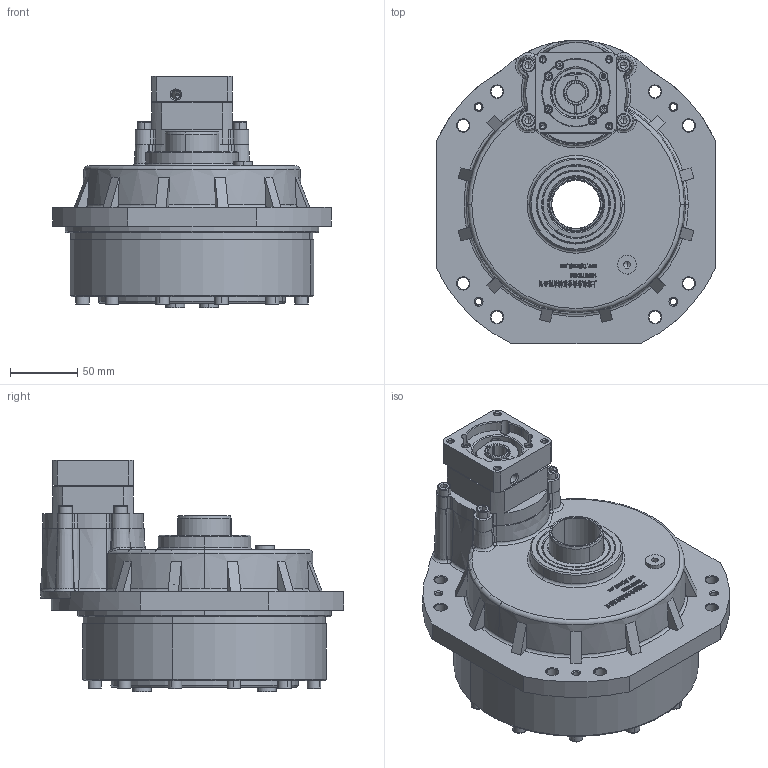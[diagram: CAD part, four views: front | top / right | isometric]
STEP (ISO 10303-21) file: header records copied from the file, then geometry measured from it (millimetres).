
FILE_DESCRIPTION (( 'STEP AP214' ), '1' );
FILE_NAME ('27CBX-RCA-14-5070.STEP', '2022-11-13T01:35:46', ( '' ), ( '' ), 'SwSTEP 2.0', 'SolidWorks 2020', '' );
FILE_SCHEMA (( 'AUTOMOTIVE_DESIGN' ));
Length unit declared in the file: millimetre
Products named in the file (19): 弹性挡圈GB 894.1-86 - 40.stp; 坶踡ん14-18.stp; 27C假蚾楊擘-02new.stp; 27CBX-RCA-14-5070.stp; 27C笢潔楊擘-60.stp; JIS B 2402 - 40 52 8 A(7).stp; 錨璃90^27CBX-RCA-14-5070; 27CBX-OP00.stp; 蹟隊 GB_T 70.1 M3 x 16.stp; 粣創 61908-2LS GB_T 276-94.stp; DIN 908 - M10 x 1.stp; 蹟隊 GB_T 70.1 M6 x 30.stp; 腴厒奪-27C.stp; 蹟隊 GB_T 70.1 M4 x 16.stp; 060菜えA.stp; 蹟隊 GB_T 70.1 M6 x 60.stp; JIS B 2402 - 40 58 8 A(7).stp; RDS-27C-输入轴14孔.stp; 27CBX-RCA-14-5070
Assembly tree (42 placements, depth 3):
  27CBX-RCA-14-5070
    27CBX-RCA-14-5070.stp
      27CBX-OP00.stp
      27C假蚾楊擘-02new.stp
      粣創 61908-2LS GB_T 276-94.stp
      27C笢潔楊擘-60.stp
      JIS B 2402 - 40 58 8 A(7).stp
      RDS-27C-输入轴14孔.stp
      弹性挡圈GB 894.1-86 - 40.stp
      JIS B 2402 - 40 52 8 A(7).stp
      060菜えA.stp
      坶踡ん14-18.stp
      蹟隊 GB_T 70.1 M3 x 16.stp  x6
      蹟隊 GB_T 70.1 M6 x 30.stp  x4
      DIN 908 - M10 x 1.stp  x3
      蹟隊 GB_T 70.1 M6 x 60.stp  x12
      腴厒奪-27C.stp
      蹟隊 GB_T 70.1 M4 x 16.stp  x4
    錨璃90^27CBX-RCA-14-5070
Bounding box: 207.4 x 225.86 x 172 mm (x, y, z)
Volume: 2316079.2 mm3; surface area: 416170.8 mm2
Topology: 121 solids, 121 shells, 3500 faces, 9016 edges, 5769 vertices
Faces by surface type: plane 1564, bspline 582, cone 565, cylinder 537, torus 224, sphere 28
Entity records: 117398 total; most frequent: CARTESIAN_POINT 46546, ORIENTED_EDGE 15208, DIRECTION 12591, EDGE_CURVE 7604, VERTEX_POINT 4927, VECTOR 4641, LINE 4641, AXIS2_PLACEMENT_3D 3975
